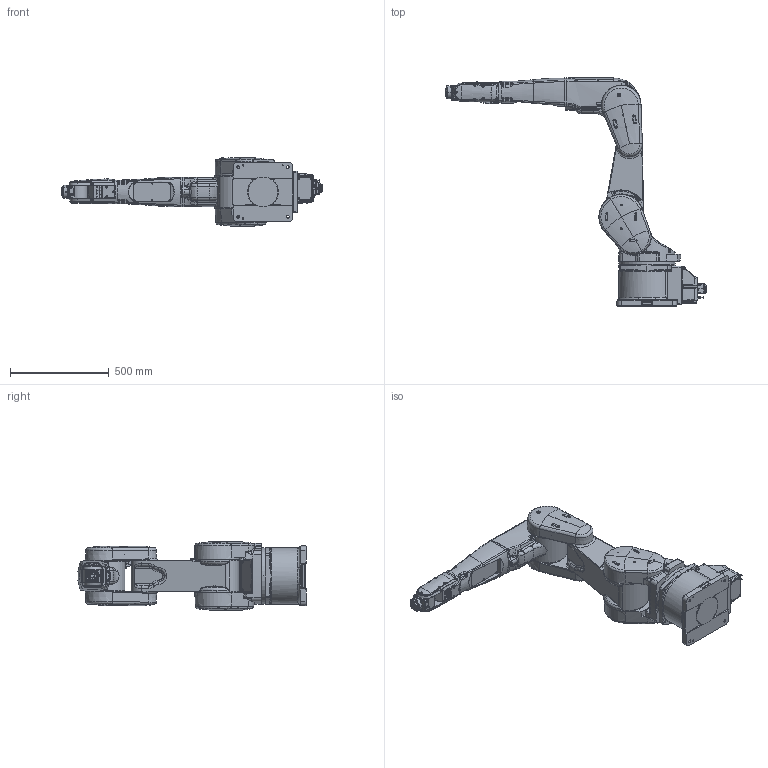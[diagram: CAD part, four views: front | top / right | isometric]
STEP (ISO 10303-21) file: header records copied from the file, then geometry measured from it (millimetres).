
FILE_DESCRIPTION((''),'2;1');
FILE_NAME('RV-7FRLL_ASM','2017-05-25T',('PC32302'),(''),'PRO/ENGINEER BY PARAMETRIC TECHNOLOGY CORPORATION, 2014310','PRO/ENGINEER BY PARAMETRIC TECHNOLOGY CORPORATION, 2014310','');
FILE_SCHEMA(('CONFIG_CONTROL_DESIGN'));
Length unit declared in the file: millimetre
Products named in the file (9): RV-7FRLL_SKELTON; RV-13FR_BASE_01; RV-13F_SHOULDER_02; RV-13FL_NO1ARM_03; RV-13F_ELBOW_04; RV-7FLL_NO2ARM; RV-4F_WRIST_05; RV-4F_HAND_FLANGE_06; RV-7FRLL_ASM
Assembly tree (8 placements, depth 2):
  RV-7FRLL_ASM
    RV-7FRLL_SKELTON
    RV-13FR_BASE_01
    RV-13F_SHOULDER_02
    RV-13FL_NO1ARM_03
    RV-13F_ELBOW_04
    RV-7FLL_NO2ARM
    RV-4F_WRIST_05
    RV-4F_HAND_FLANGE_06
Bounding box: 1322.5 x 1152.11 x 348.47 mm (x, y, z)
Volume: 72853315.2 mm3; surface area: 2467419.7 mm2
Topology: 7 solids, 10 shells, 3860 faces, 9666 edges, 6051 vertices
Faces by surface type: cylinder 1372, plane 1093, bspline 739, torus 303, cone 297, sphere 46, extrusion 5, revolution 5
Entity records: 264071 total; most frequent: CARTESIAN_POINT 177867, ORIENTED_EDGE 19264, DIRECTION 16228, EDGE_CURVE 9632, AXIS2_PLACEMENT_3D 6442, VERTEX_POINT 6051, EDGE_LOOP 4159, FACE_OUTER_BOUND 3860
